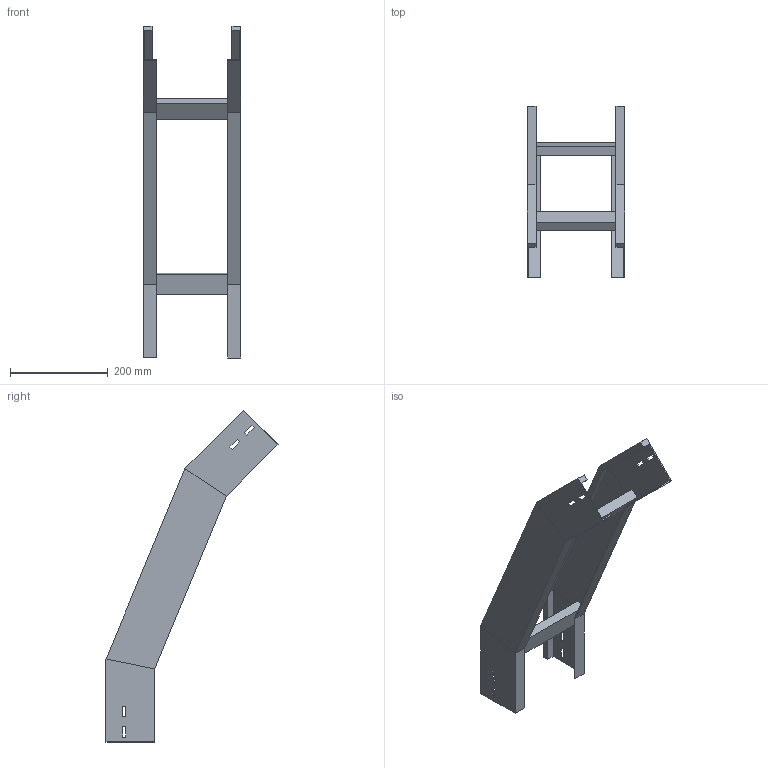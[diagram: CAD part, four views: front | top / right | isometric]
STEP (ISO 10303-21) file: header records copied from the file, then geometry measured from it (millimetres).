
FILE_DESCRIPTION (( 'STEP AP214' ), '1' );
FILE_NAME ('34B5D200.step', '2025-02-21T14:50:53', ( '' ), ( '' ), 'SwSTEP 2.0', 'SolidWorks 2023', '' );
FILE_SCHEMA (( 'AUTOMOTIVE_DESIGN' ));
Length unit declared in the file: millimetre
Products named in the file (3): 34B5D200; LONGH.DISCESA_45°_H100_R500; TRAVERSINO_200
Assembly tree (5 placements, depth 2):
  34B5D200
    LONGH.DISCESA_45°_H100_R500  x2
    TRAVERSINO_200  x3
Bounding box: 200 x 352.63 x 680.62 mm (x, y, z)
Volume: 1122300.3 mm3; surface area: 488013.4 mm2
Topology: 5 solids, 5 shells, 102 faces, 244 edges, 152 vertices
Faces by surface type: plane 102
Entity records: 1480 total; most frequent: CARTESIAN_POINT 244, ORIENTED_EDGE 232, DIRECTION 228, VECTOR 116, EDGE_CURVE 116, LINE 116, VERTEX_POINT 72, AXIS2_PLACEMENT_3D 56
